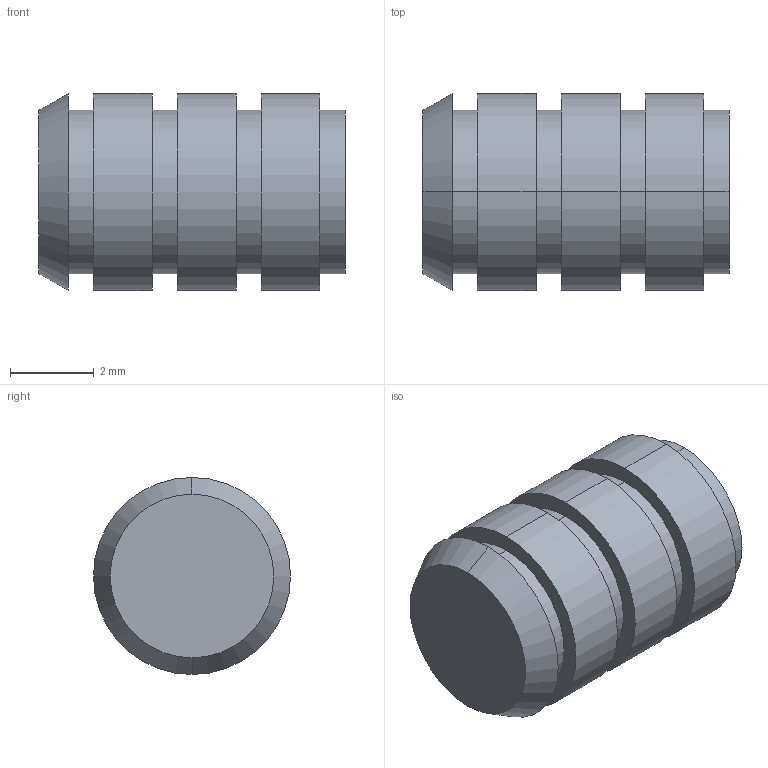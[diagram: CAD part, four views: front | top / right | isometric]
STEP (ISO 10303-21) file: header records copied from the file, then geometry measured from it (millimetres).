
FILE_DESCRIPTION (( 'STEP AP203' ), '1' );
FILE_NAME ('FSUK-BLD-M03-S.STEP', '2021-04-15T19:26:06', ( '' ), ( '' ), 'SwSTEP 2.0', 'SolidWorks 2021', '' );
FILE_SCHEMA (( 'CONFIG_CONTROL_DESIGN' ));
Length unit declared in the file: millimetre
Products named in the file (1): FSUK-BLD-M03-S
Bounding box: 7.3 x 4.7 x 4.7 mm (x, y, z)
Volume: 75.7 mm3; surface area: 214.3 mm2
Topology: 1 solids, 1 shells, 33 faces, 66 edges, 41 vertices
Faces by surface type: cylinder 18, plane 9, cone 6
Entity records: 935 total; most frequent: DIRECTION 172, CARTESIAN_POINT 139, ORIENTED_EDGE 128, AXIS2_PLACEMENT_3D 74, EDGE_CURVE 64, VERTEX_POINT 41, EDGE_LOOP 41, CIRCLE 40
